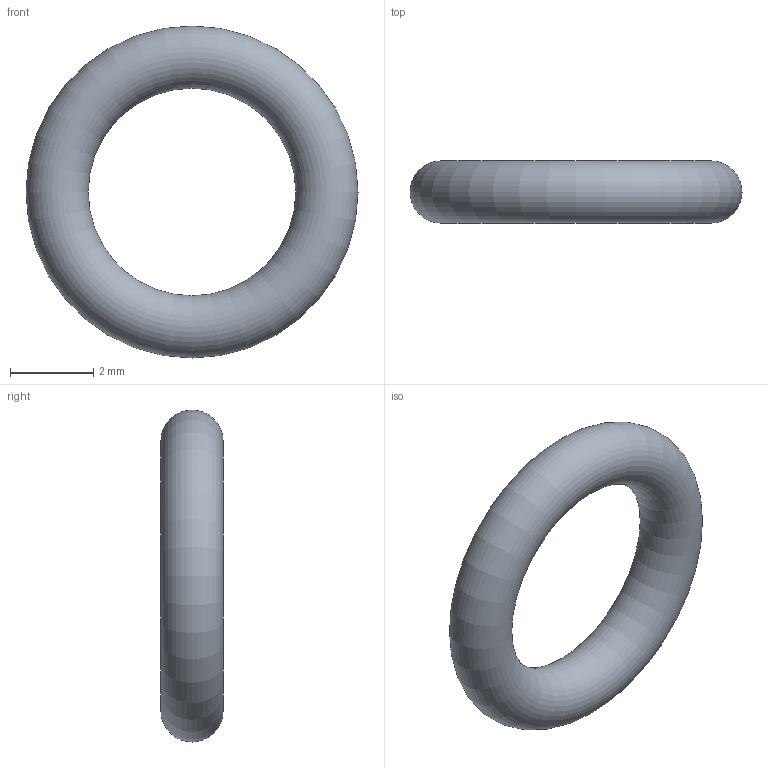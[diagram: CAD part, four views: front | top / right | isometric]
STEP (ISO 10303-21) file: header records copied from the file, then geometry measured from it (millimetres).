
FILE_DESCRIPTION( ( 'STEP AP203' ), '1' );
FILE_NAME( 'C:/Temp/Ganter_Step_05_03_2020/data/3_5/or638/O-Ring OR638-5.00-1.50-70.stp', '2020-03-12T13:44:17', ( 'License CC BY-ND 4.0' ), ( 'CADENAS' ), ' ', 'PARTsolutions', ' ' );
FILE_SCHEMA( ( 'CONFIG_CONTROL_DESIGN' ) );
Length unit declared in the file: millimetre
Products named in the file (1): _O-Ring OR638-5.00-1.50-70
Bounding box: 8 x 1.5 x 8 mm (x, y, z)
Volume: 36.1 mm3; surface area: 96.2 mm2
Topology: 1 solids, 1 shells, 1 faces, 2 edges, 1 vertices
Faces by surface type: torus 1
Entity records: 62 total; most frequent: CC_DESIGN_PERSON_AND_ORGANIZATION_ASSIGNMENT 5, PERSON_AND_ORGANIZATION_ROLE 4, DIRECTION 4, CARTESIAN_POINT 3, DATE_TIME_ROLE 2, CC_DESIGN_DATE_AND_TIME_ASSIGNMENT 2, AXIS2_PLACEMENT_3D 2, DIMENSIONAL_EXPONENTS 2
